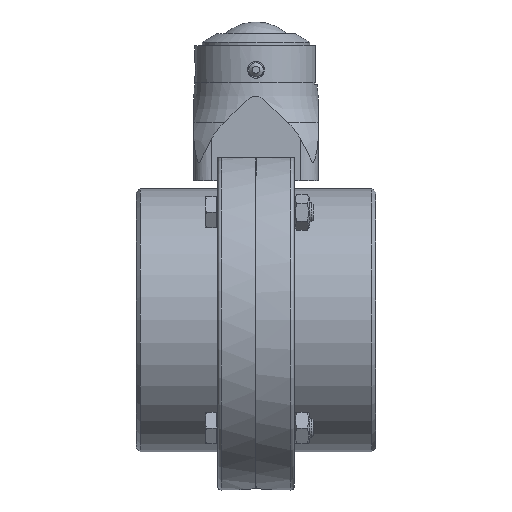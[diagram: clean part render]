
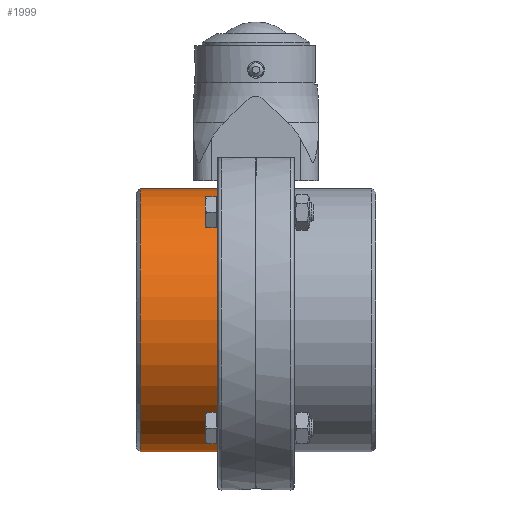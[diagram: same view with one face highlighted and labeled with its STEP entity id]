
A CAD part, left-side view. The second image highlights one B-rep face of the part: STEP entity #1999.
In plain terms, the highlighted cylindrical face has radius 55 mm (diameter 110 mm), a full revolution.
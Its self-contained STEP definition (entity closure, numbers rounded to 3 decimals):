
#1913=CARTESIAN_POINT('',(-5.124,-31.037,0.0));
#1914=VERTEX_POINT('',#1913);
#1915=CARTESIAN_POINT('',(-5.124,23.963,0.0));
#1916=DIRECTION('',(-1.0,0.0,0.0));
#1917=DIRECTION('',(0.0,-1.0,0.0));
#1918=AXIS2_PLACEMENT_3D('',#1915,#1916,#1917);
#1919=CIRCLE('',#1918,55.);
#1920=EDGE_CURVE('',#1914,#1914,#1919,.T.);
#1956=CARTESIAN_POINT('',(27.376,-31.037,0.));
#1957=VERTEX_POINT('',#1956);
#1958=CARTESIAN_POINT('',(27.376,23.963,0.0));
#1959=DIRECTION('',(1.0,0.0,0.0));
#1960=DIRECTION('',(0.0,1.0,0.0));
#1961=AXIS2_PLACEMENT_3D('',#1958,#1959,#1960);
#1962=CIRCLE('',#1961,55.);
#1963=EDGE_CURVE('',#1957,#1957,#1962,.T.);
#1988=CARTESIAN_POINT('',(11.876,23.963,0.0));
#1989=DIRECTION('',(-1.0,0.0,0.0));
#1990=DIRECTION('',(0.0,-1.0,0.0));
#1991=AXIS2_PLACEMENT_3D('',#1988,#1989,#1990);
#1992=CYLINDRICAL_SURFACE('',#1991,55.);
#1993=ORIENTED_EDGE('',*,*,#1920,.F.);
#1994=EDGE_LOOP('',(#1993));
#1995=FACE_OUTER_BOUND('',#1994,.T.);
#1996=ORIENTED_EDGE('',*,*,#1963,.F.);
#1997=EDGE_LOOP('',(#1996));
#1998=FACE_BOUND('',#1997,.T.);
#1999=ADVANCED_FACE('',(#1995,#1998),#1992,.T.);
